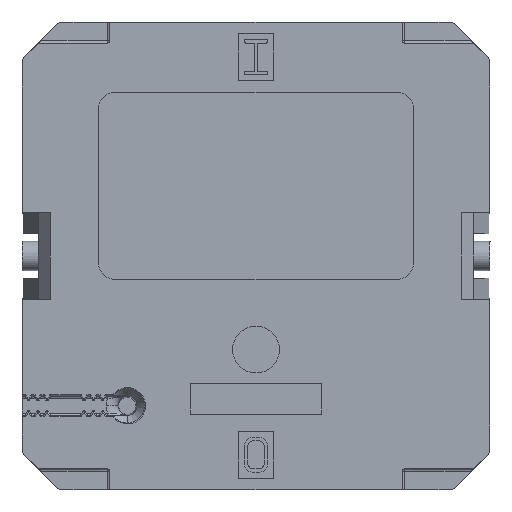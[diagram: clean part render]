
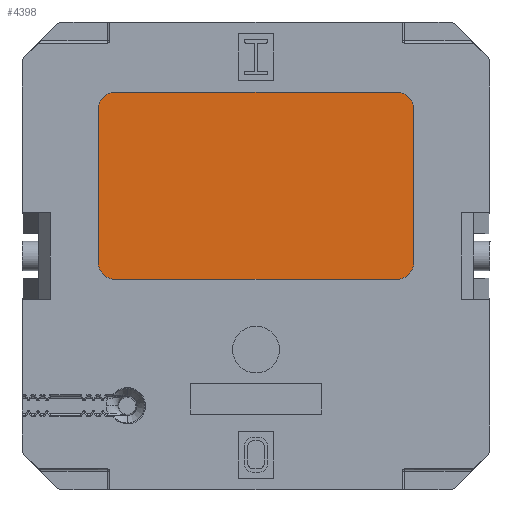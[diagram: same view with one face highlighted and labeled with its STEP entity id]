
A CAD part, front view. The second image highlights one B-rep face of the part: STEP entity #4398.
In plain terms, the highlighted planar face has unit normal (0, -1, 0).
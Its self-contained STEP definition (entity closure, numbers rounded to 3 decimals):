
#1161 = DIRECTION ( 'NONE',  ( 0., 0., -1. ) ) ;
#1257 = AXIS2_PLACEMENT_3D ( 'NONE', #20492, #14376, #17515 ) ;
#2337 = ORIENTED_EDGE ( 'NONE', *, *, #36843, .T. ) ;
#2367 = ORIENTED_EDGE ( 'NONE', *, *, #27688, .T. ) ;
#3038 = ORIENTED_EDGE ( 'NONE', *, *, #13142, .T. ) ;
#4123 = VERTEX_POINT ( 'NONE', #8583 ) ;
#4398 = ADVANCED_FACE ( 'NONE', ( #11601 ), #29265, .T. ) ;
#5809 = DIRECTION ( 'NONE',  ( 0., 0., -1. ) ) ;
#6577 = EDGE_CURVE ( 'NONE', #10613, #24867, #24417, .T. ) ;
#6589 = AXIS2_PLACEMENT_3D ( 'NONE', #19887, #11739, #22746 ) ;
#6757 = VECTOR ( 'NONE', #27240, 1000. ) ;
#8583 = CARTESIAN_POINT ( 'NONE',  ( -26.718, 5.292, 14.1 ) ) ;
#8766 = EDGE_CURVE ( 'NONE', #24867, #4123, #22221, .T. ) ;
#9835 = ORIENTED_EDGE ( 'NONE', *, *, #33953, .T. ) ;
#10316 = CIRCLE ( 'NONE', #34449, 1.5 ) ;
#10609 = CARTESIAN_POINT ( 'NONE',  ( -26.718, 5.292, 1.1 ) ) ;
#10613 = VERTEX_POINT ( 'NONE', #19802 ) ;
#10940 = VERTEX_POINT ( 'NONE', #13478 ) ;
#11601 = FACE_OUTER_BOUND ( 'NONE', #33926, .T. ) ;
#11739 = DIRECTION ( 'NONE',  ( 0., -1., 0. ) ) ;
#12345 = DIRECTION ( 'NONE',  ( 1., 0., 0. ) ) ;
#12549 = DIRECTION ( 'NONE',  ( 0., -1., 0. ) ) ;
#12684 = CARTESIAN_POINT ( 'NONE',  ( -26.718, 5.292, 7.6 ) ) ;
#13142 = EDGE_CURVE ( 'NONE', #20387, #10940, #10316, .T. ) ;
#13478 = CARTESIAN_POINT ( 'NONE',  ( -53.718, 5.292, 14.1 ) ) ;
#13948 = DIRECTION ( 'NONE',  ( -1., 0., 0. ) ) ;
#14376 = DIRECTION ( 'NONE',  ( 0., -1., 0. ) ) ;
#14628 = DIRECTION ( 'NONE',  ( 0., -1., 0. ) ) ;
#17319 = VERTEX_POINT ( 'NONE', #24075 ) ;
#17515 = DIRECTION ( 'NONE',  ( 0., 0., -1. ) ) ;
#17993 = CARTESIAN_POINT ( 'NONE',  ( -55.068, 5.292, -1.2 ) ) ;
#18442 = CARTESIAN_POINT ( 'NONE',  ( -52.218, 5.292, 14.1 ) ) ;
#19802 = CARTESIAN_POINT ( 'NONE',  ( -28.218, 5.292, -0.4 ) ) ;
#19887 = CARTESIAN_POINT ( 'NONE',  ( -28.218, 5.292, 1.1 ) ) ;
#20123 = LINE ( 'NONE', #35463, #20997 ) ;
#20387 = VERTEX_POINT ( 'NONE', #24382 ) ;
#20492 = CARTESIAN_POINT ( 'NONE',  ( -28.218, 5.292, 14.1 ) ) ;
#20997 = VECTOR ( 'NONE', #12345, 1000. ) ;
#22221 = LINE ( 'NONE', #12684, #30346 ) ;
#22746 = DIRECTION ( 'NONE',  ( 0., 0., -1. ) ) ;
#24045 = ORIENTED_EDGE ( 'NONE', *, *, #36949, .T. ) ;
#24075 = CARTESIAN_POINT ( 'NONE',  ( -52.218, 5.292, -0.4 ) ) ;
#24382 = CARTESIAN_POINT ( 'NONE',  ( -52.218, 5.292, 15.6 ) ) ;
#24417 = CIRCLE ( 'NONE', #6589, 1.5 ) ;
#24867 = VERTEX_POINT ( 'NONE', #10609 ) ;
#25742 = CARTESIAN_POINT ( 'NONE',  ( -52.218, 5.292, 1.1 ) ) ;
#25927 = CIRCLE ( 'NONE', #28524, 1.5 ) ;
#26437 = CARTESIAN_POINT ( 'NONE',  ( -28.218, 5.292, 15.6 ) ) ;
#26576 = CARTESIAN_POINT ( 'NONE',  ( -53.718, 5.292, 1.1 ) ) ;
#26615 = DIRECTION ( 'NONE',  ( 1., 0., 0. ) ) ;
#27240 = DIRECTION ( 'NONE',  ( 0., 0., -1. ) ) ;
#27348 = ORIENTED_EDGE ( 'NONE', *, *, #6577, .T. ) ;
#27688 = EDGE_CURVE ( 'NONE', #17319, #10613, #20123, .T. ) ;
#27995 = VECTOR ( 'NONE', #13948, 1000. ) ;
#28524 = AXIS2_PLACEMENT_3D ( 'NONE', #25742, #14628, #5809 ) ;
#28615 = CARTESIAN_POINT ( 'NONE',  ( -40.218, 5.292, 15.6 ) ) ;
#28875 = ORIENTED_EDGE ( 'NONE', *, *, #35077, .T. ) ;
#29008 = VERTEX_POINT ( 'NONE', #26437 ) ;
#29265 = PLANE ( 'NONE',  #33013 ) ;
#30054 = ORIENTED_EDGE ( 'NONE', *, *, #8766, .T. ) ;
#30346 = VECTOR ( 'NONE', #35434, 1000. ) ;
#32536 = LINE ( 'NONE', #28615, #27995 ) ;
#33013 = AXIS2_PLACEMENT_3D ( 'NONE', #17993, #35590, #26615 ) ;
#33754 = LINE ( 'NONE', #35715, #6757 ) ;
#33926 = EDGE_LOOP ( 'NONE', ( #27348, #30054, #28875, #9835, #3038, #24045, #2337, #2367 ) ) ;
#33953 = EDGE_CURVE ( 'NONE', #29008, #20387, #32536, .T. ) ;
#34197 = VERTEX_POINT ( 'NONE', #26576 ) ;
#34319 = CIRCLE ( 'NONE', #1257, 1.5 ) ;
#34449 = AXIS2_PLACEMENT_3D ( 'NONE', #18442, #12549, #1161 ) ;
#35077 = EDGE_CURVE ( 'NONE', #4123, #29008, #34319, .T. ) ;
#35434 = DIRECTION ( 'NONE',  ( 0., 0., 1. ) ) ;
#35463 = CARTESIAN_POINT ( 'NONE',  ( -40.218, 5.292, -0.4 ) ) ;
#35590 = DIRECTION ( 'NONE',  ( 0., -1., 0. ) ) ;
#35715 = CARTESIAN_POINT ( 'NONE',  ( -53.718, 5.292, 7.6 ) ) ;
#36843 = EDGE_CURVE ( 'NONE', #34197, #17319, #25927, .T. ) ;
#36949 = EDGE_CURVE ( 'NONE', #10940, #34197, #33754, .T. ) ;
